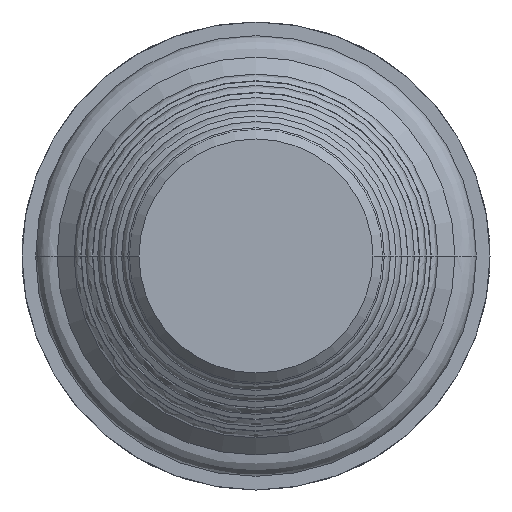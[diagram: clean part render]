
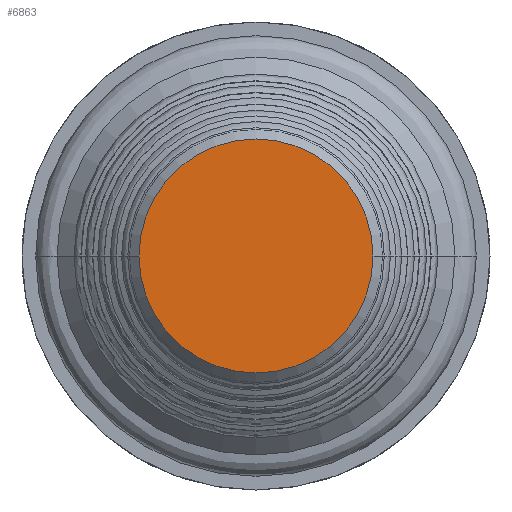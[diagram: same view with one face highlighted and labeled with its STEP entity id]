
A CAD part, front view. The second image highlights one B-rep face of the part: STEP entity #6863.
In plain terms, the highlighted planar face has unit normal (0, -1, 0).
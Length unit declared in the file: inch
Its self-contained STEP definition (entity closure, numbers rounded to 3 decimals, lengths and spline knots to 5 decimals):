
#2086=CARTESIAN_POINT('',(0.,-4.178,0.));
#2087=DIRECTION('',(0.,1.,0.));
#2088=DIRECTION('',(-1.,0.,0.));
#2089=AXIS2_PLACEMENT_3D('',#2086,#2087,#2088);
#2096=CARTESIAN_POINT('',(0.,-4.178,0.));
#2097=DIRECTION('',(0.,1.,0.));
#2098=DIRECTION('',(1.,0.,0.));
#2099=AXIS2_PLACEMENT_3D('',#2096,#2097,#2098);
#3077=CARTESIAN_POINT('',(-0.3125,-4.178,0.));
#3078=CARTESIAN_POINT('',(0.3125,-4.178,0.));
#3079=VERTEX_POINT('',#3077);
#3080=VERTEX_POINT('',#3078);
#6853=CARTESIAN_POINT('',(0.,-4.178,0.));
#6854=DIRECTION('',(0.,-1.,0.));
#6855=DIRECTION('',(-1.,0.,0.));
#6856=AXIS2_PLACEMENT_3D('',#6853,#6854,#6855);
#6857=PLANE('',#6856);
#6858=ORIENTED_EDGE('',*,*,#6843,.T.);
#6860=ORIENTED_EDGE('',*,*,#6859,.T.);
#6861=EDGE_LOOP('',(#6858,#6860));
#6862=FACE_OUTER_BOUND('',#6861,.F.);
#6863=ADVANCED_FACE('',(#6862),#6857,.T.);
#2090=CIRCLE('',#2089,0.3125);
#2100=CIRCLE('',#2099,0.3125);
#6843=EDGE_CURVE('',#3079,#3080,#2090,.T.);
#6859=EDGE_CURVE('',#3080,#3079,#2100,.T.);
